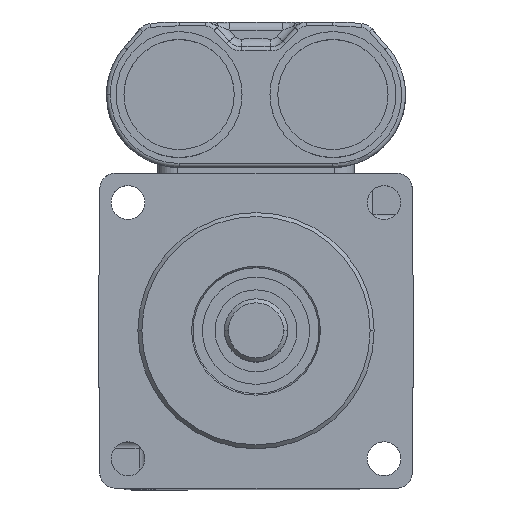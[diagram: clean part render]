
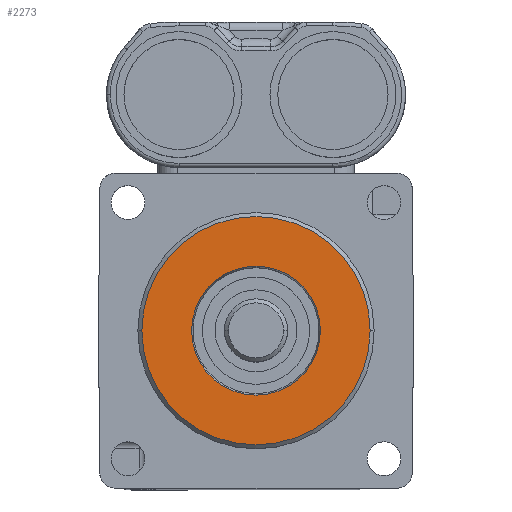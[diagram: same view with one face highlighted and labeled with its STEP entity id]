
A CAD part, top view. The second image highlights one B-rep face of the part: STEP entity #2273.
In plain terms, the highlighted planar face has unit normal (0, 0, 1).
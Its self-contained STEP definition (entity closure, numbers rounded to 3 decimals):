
#196 = DIRECTION ( 'NONE',  ( 0., 0., -1. ) ) ;
#266 = CARTESIAN_POINT ( 'NONE',  ( 0., 14.5, 1.7 ) ) ;
#350 = EDGE_CURVE ( 'NONE', #8485, #19264, #9399, .T. ) ;
#849 = CARTESIAN_POINT ( 'NONE',  ( 0., 0., 1.7 ) ) ;
#1182 = CIRCLE ( 'NONE', #1267, 8.182 ) ;
#1267 = AXIS2_PLACEMENT_3D ( 'NONE', #7680, #18781, #9273 ) ;
#2273 = ADVANCED_FACE ( 'NONE', ( #18490, #14222 ), #13035, .F. ) ;
#2460 = DIRECTION ( 'NONE',  ( -1., 0., 0. ) ) ;
#3491 = DIRECTION ( 'NONE',  ( -1., 0., 0. ) ) ;
#3671 = EDGE_CURVE ( 'NONE', #12298, #7145, #12686, .T. ) ;
#4211 = CARTESIAN_POINT ( 'NONE',  ( 14.5, 0., 1.7 ) ) ;
#4996 = CARTESIAN_POINT ( 'NONE',  ( 0., 0., 1.7 ) ) ;
#5690 = EDGE_CURVE ( 'NONE', #19264, #8485, #13218, .T. ) ;
#5955 = EDGE_CURVE ( 'NONE', #7145, #12298, #1182, .T. ) ;
#6593 = ORIENTED_EDGE ( 'NONE', *, *, #5690, .F. ) ;
#6642 = DIRECTION ( 'NONE',  ( -1., 0., 0. ) ) ;
#7145 = VERTEX_POINT ( 'NONE', #8819 ) ;
#7680 = CARTESIAN_POINT ( 'NONE',  ( 0., 0., 1.7 ) ) ;
#7988 = AXIS2_PLACEMENT_3D ( 'NONE', #849, #12033, #2460 ) ;
#8485 = VERTEX_POINT ( 'NONE', #15551 ) ;
#8819 = CARTESIAN_POINT ( 'NONE',  ( 8.182, 0., 1.7 ) ) ;
#8829 = CARTESIAN_POINT ( 'NONE',  ( 0., 0., 1.7 ) ) ;
#8867 = CARTESIAN_POINT ( 'NONE',  ( -8.182, 0., 1.7 ) ) ;
#9273 = DIRECTION ( 'NONE',  ( -1., 0., 0. ) ) ;
#9399 = CIRCLE ( 'NONE', #7988, 14.5 ) ;
#9598 = AXIS2_PLACEMENT_3D ( 'NONE', #4996, #16101, #6642 ) ;
#9887 = ORIENTED_EDGE ( 'NONE', *, *, #5955, .T. ) ;
#10117 = ORIENTED_EDGE ( 'NONE', *, *, #350, .F. ) ;
#10226 = ORIENTED_EDGE ( 'NONE', *, *, #3671, .T. ) ;
#10400 = DIRECTION ( 'NONE',  ( -1., 0., 0. ) ) ;
#11814 = AXIS2_PLACEMENT_3D ( 'NONE', #8829, #19929, #10400 ) ;
#12033 = DIRECTION ( 'NONE',  ( 0., 0., -1. ) ) ;
#12298 = VERTEX_POINT ( 'NONE', #8867 ) ;
#12686 = CIRCLE ( 'NONE', #11814, 8.182 ) ;
#13035 = PLANE ( 'NONE',  #18030 ) ;
#13218 = CIRCLE ( 'NONE', #9598, 14.5 ) ;
#14222 = FACE_BOUND ( 'NONE', #18232, .T. ) ;
#15551 = CARTESIAN_POINT ( 'NONE',  ( -14.5, 0., 1.7 ) ) ;
#16101 = DIRECTION ( 'NONE',  ( 0., 0., -1. ) ) ;
#17627 = EDGE_LOOP ( 'NONE', ( #10117, #6593 ) ) ;
#18030 = AXIS2_PLACEMENT_3D ( 'NONE', #266, #196, #3491 ) ;
#18232 = EDGE_LOOP ( 'NONE', ( #9887, #10226 ) ) ;
#18490 = FACE_OUTER_BOUND ( 'NONE', #17627, .T. ) ;
#18781 = DIRECTION ( 'NONE',  ( 0., 0., -1. ) ) ;
#19264 = VERTEX_POINT ( 'NONE', #4211 ) ;
#19929 = DIRECTION ( 'NONE',  ( 0., 0., -1. ) ) ;
